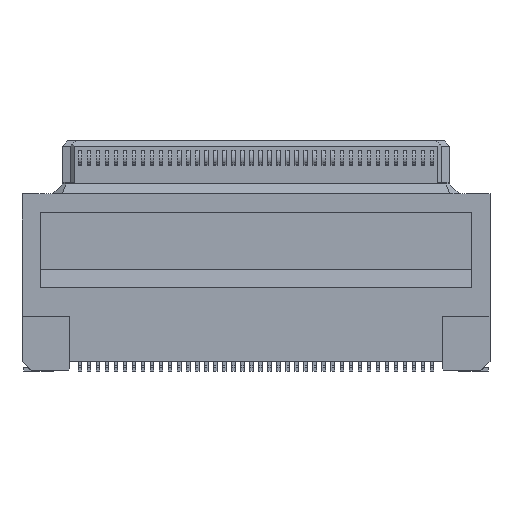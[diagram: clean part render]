
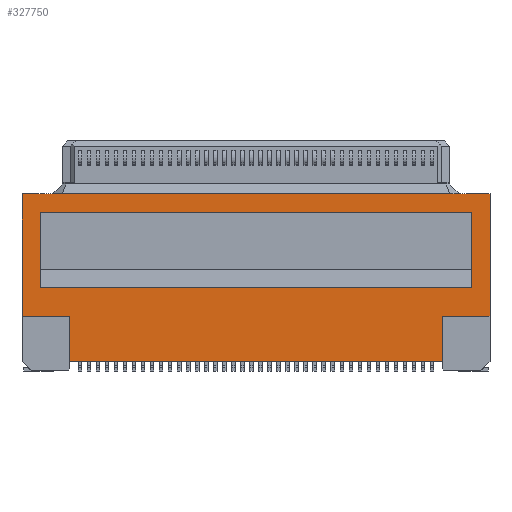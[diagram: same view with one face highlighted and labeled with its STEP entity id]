
A CAD part, front view. The second image highlights one B-rep face of the part: STEP entity #327750.
In plain terms, the highlighted planar face has unit normal (0, -1, 0) as drawn and (0, 0, 1) by its records, which use the part's own axes.
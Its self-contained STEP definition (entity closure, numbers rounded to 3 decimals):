
#1020=CARTESIAN_POINT('',(26.988,-4.86,5.3));
#1030=VERTEX_POINT('',#1020);
#1060=CARTESIAN_POINT('',(26.988,0.,5.3));
#1070=DIRECTION('',(0.,1.,0.));
#1080=VECTOR('',#1070,1.);
#1090=LINE('',#1060,#1080);
#1100=CARTESIAN_POINT('',(26.988,-2.36,5.3));
#1110=VERTEX_POINT('',#1100);
#1120=EDGE_CURVE('',#1030,#1110,#1090,.T.);
#96610=CARTESIAN_POINT('',(6.388,-4.86,5.3));
#96620=VERTEX_POINT('',#96610);
#96650=CARTESIAN_POINT('',(15.5,-4.86,5.3));
#96660=DIRECTION('',(-1.,0.,0.));
#96670=VECTOR('',#96660,1.);
#96680=LINE('',#96650,#96670);
#96690=EDGE_CURVE('',#1030,#96620,#96680,.T.);
#96900=CARTESIAN_POINT('',(29.638,4.41,5.3));
#96910=VERTEX_POINT('',#96900);
#97010=CARTESIAN_POINT('',(29.638,-2.36,5.3));
#97020=VERTEX_POINT('',#97010);
#97050=CARTESIAN_POINT('',(29.638,2.,5.3));
#97060=DIRECTION('',(0.,-1.,0.));
#97070=VECTOR('',#97060,1.);
#97080=LINE('',#97050,#97070);
#97090=EDGE_CURVE('',#96910,#97020,#97080,.T.);
#132970=CARTESIAN_POINT('',(48.876,4.41,5.3));
#132980=DIRECTION('',(1.,0.,0.));
#132990=VECTOR('',#132980,1.);
#133000=LINE('',#132970,#132990);
#133010=CARTESIAN_POINT('',(3.738,4.41,5.3));
#133020=VERTEX_POINT('',#133010);
#133030=EDGE_CURVE('',#133020,#96910,#133000,.T.);
#142450=CARTESIAN_POINT('',(28.638,3.41,5.3));
#142460=VERTEX_POINT('',#142450);
#142630=CARTESIAN_POINT('',(4.738,3.41,5.3));
#142640=VERTEX_POINT('',#142630);
#142670=CARTESIAN_POINT('',(10.,3.41,5.3));
#142680=DIRECTION('',(1.,0.,0.));
#142690=VECTOR('',#142680,1.);
#142700=LINE('',#142670,#142690);
#142710=EDGE_CURVE('',#142640,#142460,#142700,.T.);
#145240=CARTESIAN_POINT('',(28.638,1.,5.3));
#145250=DIRECTION('',(0.,-1.,0.));
#145260=VECTOR('',#145250,1.);
#145270=LINE('',#145240,#145260);
#145280=CARTESIAN_POINT('',(28.638,-0.79,5.3));
#145290=VERTEX_POINT('',#145280);
#145300=EDGE_CURVE('',#142460,#145290,#145270,.T.);
#208090=CARTESIAN_POINT('',(3.738,3.,5.3));
#208100=DIRECTION('',(0.,1.,0.));
#208110=VECTOR('',#208100,1.);
#208120=LINE('',#208090,#208110);
#208130=CARTESIAN_POINT('',(3.738,-2.36,5.3));
#208140=VERTEX_POINT('',#208130);
#208150=EDGE_CURVE('',#208140,#133020,#208120,.T.);
#282890=CARTESIAN_POINT('',(6.388,0.,5.3));
#282900=DIRECTION('',(0.,-1.,0.));
#282910=VECTOR('',#282900,1.);
#282920=LINE('',#282890,#282910);
#282930=CARTESIAN_POINT('',(6.388,-2.36,5.3));
#282940=VERTEX_POINT('',#282930);
#282950=EDGE_CURVE('',#282940,#96620,#282920,.T.);
#283870=CARTESIAN_POINT('',(15.,-2.36,5.3));
#283880=DIRECTION('',(1.,0.,0.));
#283890=VECTOR('',#283880,1.);
#283900=LINE('',#283870,#283890);
#283910=EDGE_CURVE('',#208140,#282940,#283900,.T.);
#327370=CARTESIAN_POINT('',(38.638,-1.79,5.3));
#327380=DIRECTION('',(0.,0.,1.));
#327390=DIRECTION('',(1.,0.,0.));
#327400=AXIS2_PLACEMENT_3D('',#327370,#327380,#327390);
#327410=PLANE('',#327400);
#327420=CARTESIAN_POINT('',(4.738,0.,5.3));
#327430=DIRECTION('',(0.,-1.,0.));
#327440=VECTOR('',#327430,1.);
#327450=LINE('',#327420,#327440);
#327460=CARTESIAN_POINT('',(4.738,-0.79,5.3));
#327470=VERTEX_POINT('',#327460);
#327480=EDGE_CURVE('',#142640,#327470,#327450,.T.);
#327490=ORIENTED_EDGE('',*,*,#327480,.F.);
#327500=CARTESIAN_POINT('',(15.,-0.79,5.3));
#327510=DIRECTION('',(-1.,0.,0.));
#327520=VECTOR('',#327510,1.);
#327530=LINE('',#327500,#327520);
#327540=EDGE_CURVE('',#145290,#327470,#327530,.T.);
#327550=ORIENTED_EDGE('',*,*,#327540,.T.);
#327560=ORIENTED_EDGE('',*,*,#145300,.T.);
#327570=ORIENTED_EDGE('',*,*,#142710,.T.);
#327580=EDGE_LOOP('',(#327570,#327560,#327550,#327490));
#327590=FACE_BOUND('',#327580,.T.);
#327600=ORIENTED_EDGE('',*,*,#97090,.F.);
#327610=CARTESIAN_POINT('',(0.,-2.36,5.3));
#327620=DIRECTION('',(1.,0.,0.));
#327630=VECTOR('',#327620,1.);
#327640=LINE('',#327610,#327630);
#327650=EDGE_CURVE('',#1110,#97020,#327640,.T.);
#327660=ORIENTED_EDGE('',*,*,#327650,.T.);
#327670=ORIENTED_EDGE('',*,*,#1120,.T.);
#327680=ORIENTED_EDGE('',*,*,#96690,.F.);
#327690=ORIENTED_EDGE('',*,*,#282950,.T.);
#327700=ORIENTED_EDGE('',*,*,#283910,.T.);
#327710=ORIENTED_EDGE('',*,*,#208150,.F.);
#327720=ORIENTED_EDGE('',*,*,#133030,.F.);
#327730=EDGE_LOOP('',(#327720,#327710,#327700,#327690,#327680,#327670,
#327660,#327600));
#327740=FACE_OUTER_BOUND('',#327730,.T.);
#327750=ADVANCED_FACE('',(#327590,#327740),#327410,.T.);
